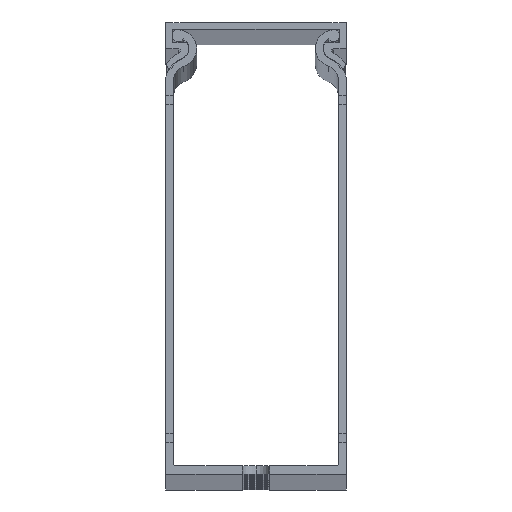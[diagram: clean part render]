
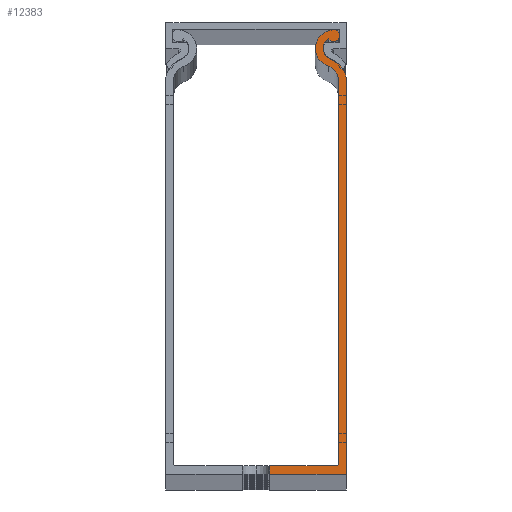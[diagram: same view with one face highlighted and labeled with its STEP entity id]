
A CAD part, top view. The second image highlights one B-rep face of the part: STEP entity #12383.
In plain terms, the highlighted planar face has unit normal (0, 0, 1).
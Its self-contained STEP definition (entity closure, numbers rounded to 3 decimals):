
#1062 = CARTESIAN_POINT ( 'NONE',  ( 2585.655, 1291.356, 2000. ) ) ;
#2187 = ORIENTED_EDGE ( 'NONE', *, *, #16323, .T. ) ;
#2383 = CARTESIAN_POINT ( 'NONE',  ( 2571.407, 1197.056, 2000. ) ) ;
#3310 = DIRECTION ( 'NONE',  ( 0., 0., 1. ) ) ;
#4210 = EDGE_CURVE ( 'NONE', #20968, #33294, #23764, .T. ) ;
#6052 = DIRECTION ( 'NONE',  ( 0., 0., 1. ) ) ;
#6206 = DIRECTION ( 'NONE',  ( 0., 0., 1. ) ) ;
#6442 = ORIENTED_EDGE ( 'NONE', *, *, #18461, .T. ) ;
#7011 = CARTESIAN_POINT ( 'NONE',  ( 2583.307, 1284.233, 2000. ) ) ;
#7221 = VERTEX_POINT ( 'NONE', #21416 ) ;
#7587 = VERTEX_POINT ( 'NONE', #39674 ) ;
#8293 = DIRECTION ( 'NONE',  ( 0., 0., -1. ) ) ;
#10618 = ORIENTED_EDGE ( 'NONE', *, *, #35715, .T. ) ;
#12187 = ORIENTED_EDGE ( 'NONE', *, *, #31182, .T. ) ;
#12383 = ADVANCED_FACE ( 'NONE', ( #16134 ), #50745, .T. ) ;
#13497 = DIRECTION ( 'NONE',  ( 1., 0., 0. ) ) ;
#13533 = EDGE_LOOP ( 'NONE', ( #31453, #12187, #2187, #34025, #15162, #26583, #10618, #6442, #64259, #40074, #31304, #30227, #31551 ) ) ;
#14030 = CARTESIAN_POINT ( 'NONE',  ( 2583.307, 1284.233, 2000. ) ) ;
#14614 = DIRECTION ( 'NONE',  ( 1., 0., 0. ) ) ;
#15162 = ORIENTED_EDGE ( 'NONE', *, *, #19861, .T. ) ;
#16071 = DIRECTION ( 'NONE',  ( 0., 0., -1. ) ) ;
#16134 = FACE_OUTER_BOUND ( 'NONE', #13533, .T. ) ;
#16323 = EDGE_CURVE ( 'NONE', #7221, #7587, #21822, .T. ) ;
#16461 = VECTOR ( 'NONE', #22493, 1000. ) ;
#16705 = AXIS2_PLACEMENT_3D ( 'NONE', #7011, #41384, #16803 ) ;
#16803 = DIRECTION ( 'NONE',  ( 1., 0., 0. ) ) ;
#18461 = EDGE_CURVE ( 'NONE', #58740, #60006, #60132, .T. ) ;
#19861 = EDGE_CURVE ( 'NONE', #50291, #52364, #44407, .T. ) ;
#20968 = VERTEX_POINT ( 'NONE', #29891 ) ;
#21416 = CARTESIAN_POINT ( 'NONE',  ( 2588.407, 1197.056, 2000. ) ) ;
#21758 = EDGE_CURVE ( 'NONE', #46481, #60034, #32453, .T. ) ;
#21822 = LINE ( 'NONE', #27530, #51370 ) ;
#21914 = AXIS2_PLACEMENT_3D ( 'NONE', #42161, #46736, #47156 ) ;
#22493 = DIRECTION ( 'NONE',  ( 0., 1., 0. ) ) ;
#23104 = DIRECTION ( 'NONE',  ( 1., 0., 0. ) ) ;
#23330 = CIRCLE ( 'NONE', #45484, 4.1 ) ;
#23764 = LINE ( 'NONE', #43473, #62588 ) ;
#24062 = VERTEX_POINT ( 'NONE', #51745 ) ;
#24411 = CARTESIAN_POINT ( 'NONE',  ( 2585.655, 1291.356, 2000. ) ) ;
#25529 = CIRCLE ( 'NONE', #53873, 1.35 ) ;
#26583 = ORIENTED_EDGE ( 'NONE', *, *, #51031, .T. ) ;
#26977 = CARTESIAN_POINT ( 'NONE',  ( 2583.255, 1291.356, 2000. ) ) ;
#27530 = CARTESIAN_POINT ( 'NONE',  ( 2588.407, 1197.056, 2000. ) ) ;
#28881 = LINE ( 'NONE', #57712, #16461 ) ;
#28898 = DIRECTION ( 'NONE',  ( 0., -1., 0. ) ) ;
#28969 = CARTESIAN_POINT ( 'NONE',  ( 2584.904, 1289.077, 2000. ) ) ;
#29384 = VECTOR ( 'NONE', #60669, 1000. ) ;
#29442 = VECTOR ( 'NONE', #59973, 1000. ) ;
#29743 = CARTESIAN_POINT ( 'NONE',  ( 2568.407, 1197.056, 2000. ) ) ;
#29879 = VERTEX_POINT ( 'NONE', #48536 ) ;
#29891 = CARTESIAN_POINT ( 'NONE',  ( 2586.707, 1284.203, 2000. ) ) ;
#30227 = ORIENTED_EDGE ( 'NONE', *, *, #64438, .T. ) ;
#30234 = DIRECTION ( 'NONE',  ( 1., 0., 0. ) ) ;
#30603 = CIRCLE ( 'NONE', #58062, 0.5 ) ;
#31010 = CARTESIAN_POINT ( 'NONE',  ( 2553.507, 1284.233, 2000. ) ) ;
#31182 = EDGE_CURVE ( 'NONE', #44065, #7221, #59780, .T. ) ;
#31304 = ORIENTED_EDGE ( 'NONE', *, *, #4210, .T. ) ;
#31453 = ORIENTED_EDGE ( 'NONE', *, *, #51837, .F. ) ;
#31551 = ORIENTED_EDGE ( 'NONE', *, *, #21758, .T. ) ;
#32453 = LINE ( 'NONE', #55459, #29384 ) ;
#33294 = VERTEX_POINT ( 'NONE', #34058 ) ;
#33365 = DIRECTION ( 'NONE',  ( 0., 1., 0. ) ) ;
#33742 = AXIS2_PLACEMENT_3D ( 'NONE', #49964, #16071, #30234 ) ;
#34025 = ORIENTED_EDGE ( 'NONE', *, *, #62555, .T. ) ;
#34058 = CARTESIAN_POINT ( 'NONE',  ( 2586.707, 1199.456, 2000. ) ) ;
#34463 = DIRECTION ( 'NONE',  ( 1., 0., 0. ) ) ;
#35715 = EDGE_CURVE ( 'NONE', #24062, #58740, #25529, .T. ) ;
#39674 = CARTESIAN_POINT ( 'NONE',  ( 2588.407, 1284.196, 2000. ) ) ;
#40074 = ORIENTED_EDGE ( 'NONE', *, *, #55760, .T. ) ;
#40382 = CARTESIAN_POINT ( 'NONE',  ( 2581.555, 1291.356, 2000. ) ) ;
#41384 = DIRECTION ( 'NONE',  ( 0., 0., 1. ) ) ;
#42161 = CARTESIAN_POINT ( 'NONE',  ( 2585.655, 1291.356, 2000. ) ) ;
#43313 = CARTESIAN_POINT ( 'NONE',  ( 2586.207, 1199.456, 2000. ) ) ;
#43473 = CARTESIAN_POINT ( 'NONE',  ( 2586.707, 1284.203, 2000. ) ) ;
#44065 = VERTEX_POINT ( 'NONE', #2383 ) ;
#44407 = CIRCLE ( 'NONE', #56596, 2.4 ) ;
#44413 = DIRECTION ( 'NONE',  ( 0., 0., -1. ) ) ;
#44471 = CARTESIAN_POINT ( 'NONE',  ( 2586.207, 1198.956, 2000. ) ) ;
#45197 = CARTESIAN_POINT ( 'NONE',  ( 2571.407, 1198.956, 2000. ) ) ;
#45484 = AXIS2_PLACEMENT_3D ( 'NONE', #1062, #6052, #46047 ) ;
#46047 = DIRECTION ( 'NONE',  ( 1., 0., 0. ) ) ;
#46481 = VERTEX_POINT ( 'NONE', #44471 ) ;
#46736 = DIRECTION ( 'NONE',  ( 0., 0., 1. ) ) ;
#47156 = DIRECTION ( 'NONE',  ( 1., 0., 0. ) ) ;
#48536 = CARTESIAN_POINT ( 'NONE',  ( 2584.372, 1287.462, 2000. ) ) ;
#48794 = DIRECTION ( 'NONE',  ( 0., 0., -1. ) ) ;
#49964 = CARTESIAN_POINT ( 'NONE',  ( 2585.655, 1291.356, 2000. ) ) ;
#50291 = VERTEX_POINT ( 'NONE', #28969 ) ;
#50574 = AXIS2_PLACEMENT_3D ( 'NONE', #14030, #48794, #34463 ) ;
#50745 = PLANE ( 'NONE',  #57930 ) ;
#51031 = EDGE_CURVE ( 'NONE', #52364, #24062, #52322, .T. ) ;
#51370 = VECTOR ( 'NONE', #33365, 1000. ) ;
#51745 = CARTESIAN_POINT ( 'NONE',  ( 2584.527, 1293.474, 2000. ) ) ;
#51837 = EDGE_CURVE ( 'NONE', #44065, #60034, #28881, .T. ) ;
#52322 = CIRCLE ( 'NONE', #33742, 2.4 ) ;
#52364 = VERTEX_POINT ( 'NONE', #26977 ) ;
#52879 = EDGE_CURVE ( 'NONE', #60006, #29879, #23330, .T. ) ;
#53873 = AXIS2_PLACEMENT_3D ( 'NONE', #63278, #3310, #23104 ) ;
#55002 = CIRCLE ( 'NONE', #16705, 5.1 ) ;
#55366 = DIRECTION ( 'NONE',  ( 1., 0., 0. ) ) ;
#55459 = CARTESIAN_POINT ( 'NONE',  ( 2568.407, 1198.956, 2000. ) ) ;
#55760 = EDGE_CURVE ( 'NONE', #29879, #20968, #61539, .T. ) ;
#56596 = AXIS2_PLACEMENT_3D ( 'NONE', #24411, #44413, #14614 ) ;
#57712 = CARTESIAN_POINT ( 'NONE',  ( 2571.407, 1284.233, 2000. ) ) ;
#57930 = AXIS2_PLACEMENT_3D ( 'NONE', #31010, #6206, #55366 ) ;
#58062 = AXIS2_PLACEMENT_3D ( 'NONE', #43313, #8293, #13497 ) ;
#58740 = VERTEX_POINT ( 'NONE', #60310 ) ;
#59780 = LINE ( 'NONE', #29743, #29442 ) ;
#59973 = DIRECTION ( 'NONE',  ( 1., 0., 0. ) ) ;
#60006 = VERTEX_POINT ( 'NONE', #40382 ) ;
#60034 = VERTEX_POINT ( 'NONE', #45197 ) ;
#60132 = CIRCLE ( 'NONE', #21914, 4.1 ) ;
#60310 = CARTESIAN_POINT ( 'NONE',  ( 2585.029, 1295.408, 2000. ) ) ;
#60669 = DIRECTION ( 'NONE',  ( -1., 0., 0. ) ) ;
#61539 = CIRCLE ( 'NONE', #50574, 3.4 ) ;
#62555 = EDGE_CURVE ( 'NONE', #7587, #50291, #55002, .T. ) ;
#62588 = VECTOR ( 'NONE', #28898, 1000. ) ;
#63278 = CARTESIAN_POINT ( 'NONE',  ( 2585.657, 1294.213, 2000. ) ) ;
#64259 = ORIENTED_EDGE ( 'NONE', *, *, #52879, .T. ) ;
#64438 = EDGE_CURVE ( 'NONE', #33294, #46481, #30603, .T. ) ;
